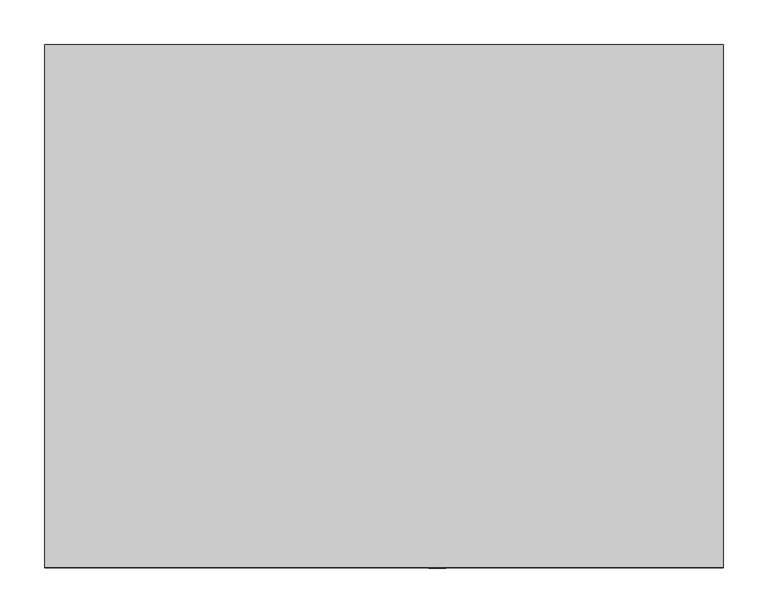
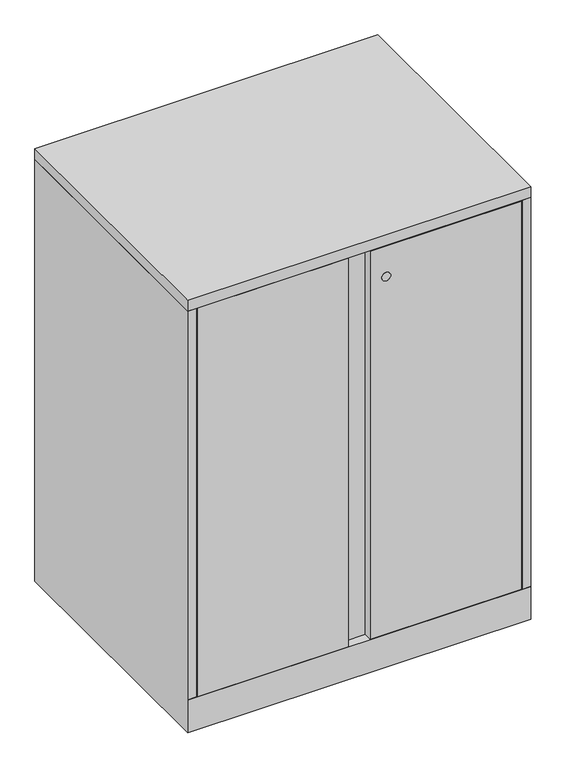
"""IFC4 building model written with IfcOpenShell, lengths in millimetres: furniture geometry, Steelcase - Universal Storage - Cabinet - Storage - 40H-52H - Flush Steel : 40H x 23 1/8D x 30W."""

import ifcopenshell
import ifcopenshell.guid

model = None  # the IFC model being written
_history = None  # IfcOwnerHistory: only IFC2X3 demands one
_inside = {}  # id of a spatial element -> (the spatial element, [elements in it])
_under = {}  # id of a project, library or spatial element -> (it, [spatial elements below it])
_declared = {}  # id of a project -> (the project, [libraries it declares])
_typed = {}  # id of a type object -> (the type object, [elements of that type])
_made_of = {}  # id of a material, layer set ... -> (it, [elements and type objects made of it])


def new_model(schema):
    """Start an empty IFC model of exactly this schema.

    Asked for "IFC4X3", IfcOpenShell would pick the latest addendum, in which some entities
    have other attributes; the version numbers below select the first issue.
    IFC2X3 requires an IfcOwnerHistory on every rooted entity: one is made here for all.
    """
    global model, _history
    if schema == "IFC4X3":
        model = ifcopenshell.file(schema_version=(4, 3, 0, 0))
    else:
        model = ifcopenshell.file(schema=schema)
    _inside.clear()
    _under.clear()
    _declared.clear()
    _typed.clear()
    _made_of.clear()
    _history = None
    if model.schema == "IFC2X3":
        org = make("IfcOrganization", Name="unknown")
        user = make(
            "IfcPersonAndOrganization",
            ThePerson=make("IfcPerson", FamilyName="unknown"),
            TheOrganization=org,
        )
        app = make(
            "IfcApplication",
            ApplicationDeveloper=org,
            Version="unknown",
            ApplicationFullName="unknown",
            ApplicationIdentifier="unknown",
        )
        _history = make(
            "IfcOwnerHistory",
            OwningUser=user,
            OwningApplication=app,
            ChangeAction="ADDED",
            CreationDate=0,
        )
    return model


def make(cls, **values):
    """One entity of the class cls with the attributes given. An attribute that is None is left unset."""
    return model.create_entity(
        cls, **{name: value for name, value in values.items() if value is not None}
    )


def rooted(cls, **values):
    """An entity with a GlobalId (a new one), such as an element, a storey or a relation."""
    return make(cls, GlobalId=ifcopenshell.guid.new(), OwnerHistory=_history, **values)


def si_unit(unit_type, name, prefix=None):
    """IfcSIUnit, for example si_unit("LENGTHUNIT", "METRE", prefix="MILLI")."""
    return make("IfcSIUnit", UnitType=unit_type, Prefix=prefix, Name=name)


def assignment(units):
    """IfcUnitAssignment: the units of a project."""
    return None if units is None else make("IfcUnitAssignment", Units=units)


def point(xyz):
    """IfcCartesianPoint."""
    return None if xyz is None else make("IfcCartesianPoint", Coordinates=xyz)


def direction(xyz):
    """IfcDirection."""
    return None if xyz is None else make("IfcDirection", DirectionRatios=xyz)


def frame(location, z_axis=None, x_axis=None):
    """IfcAxis2Placement3D, a coordinate frame: its origin and axes. An axis left out is left unset."""
    return make(
        "IfcAxis2Placement3D",
        Location=point(location),
        Axis=direction(z_axis),
        RefDirection=direction(x_axis),
    )


def frame_2d(location, x_axis=None):
    """IfcAxis2Placement2D, a coordinate frame in the plane: its origin and x axis."""
    return make(
        "IfcAxis2Placement2D", Location=point(location), RefDirection=direction(x_axis)
    )


def origin():
    """The frame at (0, 0, 0) with its axes left unset."""
    return frame((0.0, 0.0, 0.0))


def place(relative_to, where):
    """IfcLocalPlacement: puts the frame where relative to a parent placement (None: the world)."""
    return make(
        "IfcLocalPlacement", PlacementRelTo=relative_to, RelativePlacement=where
    )


def context(
    kind, dimensions, precision=None, world=None, true_north=None, identifier=None
):
    """IfcGeometricRepresentationContext, for example the 3D "Model" context."""
    return make(
        "IfcGeometricRepresentationContext",
        ContextIdentifier=identifier,
        ContextType=kind,
        CoordinateSpaceDimension=dimensions,
        Precision=precision,
        WorldCoordinateSystem=world,
        TrueNorth=true_north,
    )


def project(units=None, contexts=None):
    """IfcProject with its units and contexts."""
    return rooted(
        "IfcProject",
        Name="project",
        RepresentationContexts=contexts,
        UnitsInContext=assignment(units),
    )


def spatial(cls, under=None, at=None, **own):
    """A site, building, storey or space (cls), placed at a placement, below another one or the project."""
    s = rooted(cls, ObjectPlacement=at, **own)
    if under is not None:
        _under.setdefault(under.id(), (under, []))[1].append(s)
    return s


def polyline(points):
    """IfcPolyline through the points."""
    return make("IfcPolyline", Points=[point(p) for p in points])


def circle_curve(where, radius):
    """IfcCircle in the frame where."""
    return make("IfcCircle", Position=where, Radius=radius)


def trimmed(basis, trim1, trim2, sense, master):
    """IfcTrimmedCurve: the piece of a basis curve between two trims."""
    return make(
        "IfcTrimmedCurve",
        BasisCurve=basis,
        Trim1=trim1,
        Trim2=trim2,
        SenseAgreement=sense,
        MasterRepresentation=master,
    )


def segment(curve, same_sense, transition):
    """IfcCompositeCurveSegment."""
    return make(
        "IfcCompositeCurveSegment",
        Transition=transition,
        SameSense=same_sense,
        ParentCurve=curve,
    )


def composite_curve(segments, self_intersect=None):
    """IfcCompositeCurve: segments joined end to end."""
    return make("IfcCompositeCurve", Segments=segments, SelfIntersect=self_intersect)


def outline(outer, holes=None, kind="AREA"):
    """IfcArbitraryClosedProfileDef: a profile drawn as a closed curve; with holes, ...WithVoids."""
    if holes is None:
        return make("IfcArbitraryClosedProfileDef", ProfileType=kind, OuterCurve=outer)
    return make(
        "IfcArbitraryProfileDefWithVoids",
        ProfileType=kind,
        OuterCurve=outer,
        InnerCurves=holes,
    )


def extrude(swept, where, along, depth):
    """IfcExtrudedAreaSolid: the profile swept, set in the frame where, extruded along a direction by depth."""
    return make(
        "IfcExtrudedAreaSolid",
        SweptArea=swept,
        Position=where,
        ExtrudedDirection=direction(along),
        Depth=depth,
    )


def faces_of(points, faces, orient=None, outer=None):
    """IfcFace entities. A face is a list of loops; a loop is a list of indices into points, from 0.

    orient and outer hold one flag for each loop. By default every Orientation is true, the
    first loop of a face is its IfcFaceOuterBound and the others are IfcFaceBound.
    """
    made = []
    for i, loops in enumerate(faces):
        bounds = []
        for j, loop in enumerate(loops):
            is_outer = j == 0 if outer is None else outer[i][j]
            bounds.append(
                make(
                    "IfcFaceOuterBound" if is_outer else "IfcFaceBound",
                    Bound=make("IfcPolyLoop", Polygon=[points[k] for k in loop]),
                    Orientation=True if orient is None else orient[i][j],
                )
            )
        made.append(make("IfcFace", Bounds=bounds))
    return made


def faceted_brep(points, faces, orient=None, outer=None, voids=None):
    """IfcFacetedBrep: a solid bounded by flat faces; with voids (closed shells), ...WithVoids."""
    shared = [point(p) for p in points]
    hull = make("IfcClosedShell", CfsFaces=faces_of(shared, faces, orient, outer))
    if voids is None:
        return make("IfcFacetedBrep", Outer=hull)
    return make(
        "IfcFacetedBrepWithVoids",
        Outer=hull,
        Voids=[
            make(cls, CfsFaces=faces_of(shared, fs, o, b)) for cls, fs, o, b in voids
        ],
    )


def shape(context_of_items, identifier, shape_type, items):
    """IfcShapeRepresentation: the items that make up one representation, for example the "Body"."""
    return make(
        "IfcShapeRepresentation",
        ContextOfItems=context_of_items,
        RepresentationIdentifier=identifier,
        RepresentationType=shape_type,
        Items=items,
    )


def source(mapping_origin, context_of_items, identifier, shape_type, items):
    """IfcRepresentationMap: a shape defined once, which mapped items show again and again."""
    return make(
        "IfcRepresentationMap",
        MappingOrigin=mapping_origin,
        MappedRepresentation=shape(context_of_items, identifier, shape_type, items),
    )


def transform(
    local_origin,
    x_axis=None,
    y_axis=None,
    z_axis=None,
    scale=None,
    scale2=None,
    scale3=None,
    uniform=True,
):
    """IfcCartesianTransformationOperator3D, or its non-uniform kind. x_axis, y_axis, z_axis: its Axis1, 2, 3."""
    if uniform:
        return make(
            "IfcCartesianTransformationOperator3D",
            Axis1=direction(x_axis),
            Axis2=direction(y_axis),
            LocalOrigin=point(local_origin),
            Scale=scale,
            Axis3=direction(z_axis),
        )
    return make(
        "IfcCartesianTransformationOperator3DnonUniform",
        Axis1=direction(x_axis),
        Axis2=direction(y_axis),
        LocalOrigin=point(local_origin),
        Scale=scale,
        Axis3=direction(z_axis),
        Scale2=scale2,
        Scale3=scale3,
    )


def mapped(mapping_source, mapping_target):
    """IfcMappedItem: shows the shape of a source again, moved by a transform."""
    return make(
        "IfcMappedItem", MappingSource=mapping_source, MappingTarget=mapping_target
    )


def made_of(thing, what):
    """Note that an element or type object is made of a material, layer set ...; save() writes the relation."""
    if what is not None:
        _made_of.setdefault(what.id(), (what, []))[1].append(thing)
    return thing


def element(
    cls,
    number,
    at=None,
    inside=None,
    cuts=None,
    type_object=None,
    material=None,
    context=None,
    identifier="Body",
    shape_type=None,
    held_by="IfcProductDefinitionShape",
    body=None,
    shapes=None,
    **own,
):
    """One element of the class cls, such as IfcWall. Its Tag is "e" and its number.

    at: its placement. inside: the storey or other place that contains it. cuts: it is an
    opening in that element (IfcRelVoidsElement). A single representation is given by context,
    identifier, shape_type and body (its items); several are given by shapes. held_by: the class
    of the entity that holds the representations. save() writes the other relations.
    """
    e = rooted(cls, Tag="e%d" % number, ObjectPlacement=at, **own)
    if body is not None:
        shapes = [shape(context, identifier, shape_type, body)]
    if shapes is not None:
        e.Representation = make(held_by, Representations=shapes)
    if inside is not None:
        _inside.setdefault(inside.id(), (inside, []))[1].append(e)
    if cuts is not None:
        rooted(
            "IfcRelVoidsElement", RelatingBuildingElement=cuts, RelatedOpeningElement=e
        )
    if type_object is not None:
        _typed.setdefault(type_object.id(), (type_object, []))[1].append(e)
    return made_of(e, material)


def aggregate(whole, parts):
    """IfcRelAggregates: a whole, such as a stair, and the parts it consists of."""
    return rooted("IfcRelAggregates", RelatingObject=whole, RelatedObjects=parts)


def save(model, path):
    """Write the relations noted so far, then the file.

    IfcRelAggregates (storeys below a building ...), IfcRelContainedInSpatialStructure (elements
    in a storey), IfcRelDefinesByType, IfcRelAssociatesMaterial and IfcRelDeclares: one each for
    every whole, place, type object, material and project.
    """
    for whole, parts in _under.values():
        aggregate(whole, parts)
    for where, things in _inside.values():
        rooted(
            "IfcRelContainedInSpatialStructure",
            RelatedElements=things,
            RelatingStructure=where,
        )
    for kind, things in _typed.values():
        rooted("IfcRelDefinesByType", RelatedObjects=things, RelatingType=kind)
    for what, things in _made_of.values():
        rooted("IfcRelAssociatesMaterial", RelatedObjects=things, RelatingMaterial=what)
    for by, libraries in _declared.values():
        rooted("IfcRelDeclares", RelatingContext=by, RelatedDefinitions=libraries)
    model.write(path)


def furniture_b22d5195(model_context):
    return source(origin(), model_context, "Body", "SolidModel", [
        extrude(outline(polyline([(762.0, 0.0), (762.0, -587.502), (0.0, -587.502), (0.0, 0.0), (762.0, 0.0)])), frame((0.0, 0.0, 990.6), z_axis=(0.0, 0.0, 1.0), x_axis=(1.0, 0.0, 0.0)), (0.0, 0.0, 1.0), 25.4000484),
        extrude(outline(composite_curve([segment(trimmed(circle_curve(frame_2d((917.575, 440.8109835)), 9.7167829), [point((917.575, 450.5277664))], [point((917.575, 431.0942006))], False, "CARTESIAN"), True, "CONTINUOUS"), segment(trimmed(circle_curve(frame_2d((917.575, 440.8109835)), 9.7167829), [point((917.575, 431.0942006))], [point((917.575, 450.5277664))], False, "CARTESIAN"), True, "CONTINUOUS")], self_intersect=False)), frame((0.0, -588.1715275, 0.0), z_axis=(0.0, 1.0, 0.0), x_axis=(0.0, 0.0, 1.0)), (0.0, 0.0, 1.0), 0.6695275),
        extrude(outline(polyline([(20.8280006, -561.975866), (741.172, -561.975866), (741.172, -587.502), (405.13, -587.502), (405.13, -568.3258781), (356.87, -568.3258781), (356.87, -587.502), (20.8280006, -587.502), (20.8280006, -561.975866)])), frame((0.0, 0.0, 77.724), z_axis=(0.0, 0.0, 1.0), x_axis=(1.0, 0.0, 0.0)), (0.0, 0.0, 1.0), 911.606),
        faceted_brep([(762.0, 0.0, 0.0), (762.0, -587.502, 0.0), (0.0, -587.502, 0.0), (0.0, 0.0, 0.0), (0.0, 0.0, 990.6), (762.0, 0.0, 990.6), (0.0, -587.502, 76.2), (0.0, -587.502, 77.724), (0.0, -587.502, 990.6), (762.0, -587.502, 76.2), (762.0, -587.502, 990.6), (762.0, -587.502, 77.724), (736.6000242, -25.4000008, 990.6), (736.6000242, -560.4518674, 990.6), (741.172, -560.4518674, 990.6), (741.172, -561.9758781, 990.6), (742.696, -561.9758781, 990.6), (742.696, -587.502, 990.6), (19.304, -587.502, 990.6), (19.304, -561.975866, 990.6), (20.8280006, -561.975866, 990.6), (20.8280006, -560.4518674, 990.6), (25.4000008, -560.4518674, 990.6), (25.4000008, -25.4000008, 990.6), (19.304, -587.502, 77.724), (19.304, -568.198, 77.724), (742.696, -587.502, 77.724), (742.696, -568.0718418, 77.724), (736.6000242, -25.4000008, 77.724), (736.6000242, -560.4518674, 77.724), (741.172, -560.4518674, 77.724), (741.172, -561.9758781, 77.724), (742.696, -561.9758781, 77.724), (19.304, -561.975866, 77.724), (20.8280006, -561.975866, 77.724), (20.8280006, -560.4518674, 77.724), (25.4000008, -560.4518674, 77.724), (25.4000008, -25.4000008, 77.724), (25.526134, -561.975866, 77.724), (736.6000242, -561.975866, 77.724)], [[[0, 1, 2, 3]], [[0, 3, 4, 5]], [[4, 3, 2, 6, 7, 8]], [[2, 1, 9, 6]], [[1, 0, 5, 10, 11, 9]], [[12, 13, 14, 15, 16, 17, 10, 5, 4, 8, 18, 19, 20, 21, 22, 23]], [[24, 7, 25]], [[11, 26, 27]], [[13, 12, 28, 29]], [[14, 13, 29, 30]], [[15, 14, 30, 31]], [[16, 15, 31, 32]], [[17, 16, 32, 27, 26]], [[10, 17, 26, 11]], [[18, 8, 7, 24]], [[19, 18, 24, 25, 33]], [[20, 19, 33, 34]], [[21, 20, 34, 35]], [[22, 21, 35, 36]], [[23, 22, 36, 37]], [[12, 23, 37, 28]], [[38, 39, 27, 32, 31, 30, 29, 28, 37, 36, 35, 34, 33, 25]], [[7, 6, 38, 25]], [[39, 38, 6, 9]], [[39, 9, 11, 27]]]),
    ])


if __name__ == "__main__":
    model = new_model("IFC4")
    model_context = context("Model", 3, world=origin())
    ifc_project = project(units=[si_unit("LENGTHUNIT", "METRE", prefix="MILLI")], contexts=[model_context])
    site = spatial("IfcSite", under=ifc_project)
    building = spatial("IfcBuilding", under=site)
    placement = place(None, origin())
    furniture_shape = furniture_b22d5195(model_context)
    element("IfcFurniture", 1, ObjectType="Steelcase - Universal Storage - Cabinet - Storage - 40H-52H - Flush Steel : 40H x 23 1/8D x 30W", at=placement, inside=building, context=model_context, shape_type="MappedRepresentation", body=[
        mapped(furniture_shape, transform((0.0, 0.0, 0.0), x_axis=(1.0, 0.0, 0.0), y_axis=(0.0, 1.0, 0.0), z_axis=(0.0, 0.0, 1.0))),
    ])
    save(model, "model.ifc")
